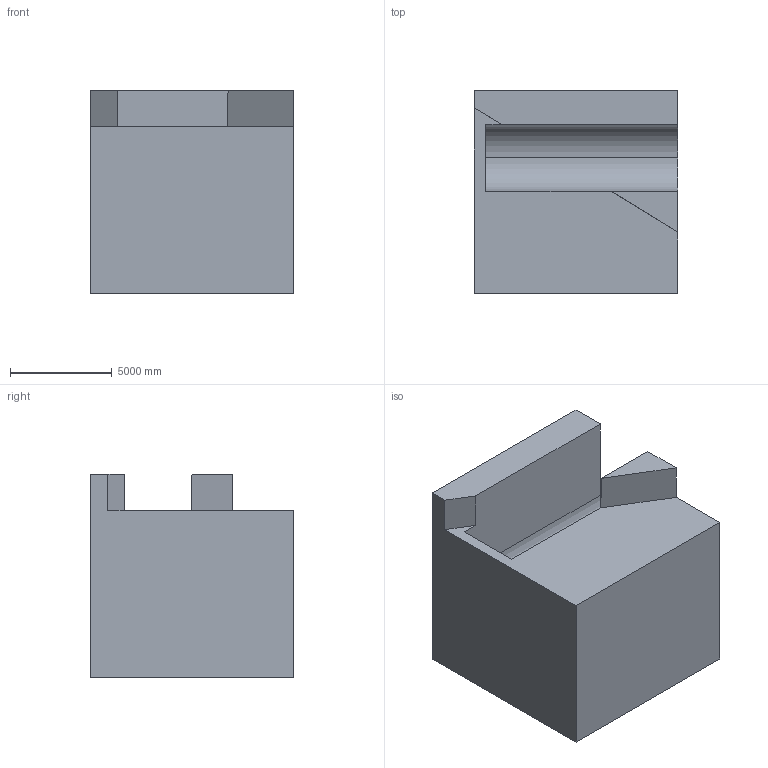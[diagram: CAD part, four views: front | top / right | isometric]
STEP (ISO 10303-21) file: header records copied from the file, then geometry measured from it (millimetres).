
FILE_DESCRIPTION (( 'STEP AP203' ), '1' );
FILE_NAME ('102.STEP', '2022-09-06T13:16:26', ( 'user' ), ( '' ), 'SwSTEP 2.0', 'SolidWorks 2021', '' );
FILE_SCHEMA (( 'CONFIG_CONTROL_DESIGN' ));
Length unit declared in the file: centimetre
Products named in the file (1): 102
Bounding box: 10000 x 10000 x 10000 mm (x, y, z)
Volume: 738926772024.7 mm3; surface area: 650485419.5 mm2
Topology: 1 solids, 1 shells, 15 faces, 39 edges, 26 vertices
Faces by surface type: plane 13, cylinder 2
Entity records: 534 total; most frequent: CARTESIAN_POINT 81, ORIENTED_EDGE 78, DIRECTION 75, EDGE_CURVE 39, LINE 35, VECTOR 35, VERTEX_POINT 26, AXIS2_PLACEMENT_3D 20
